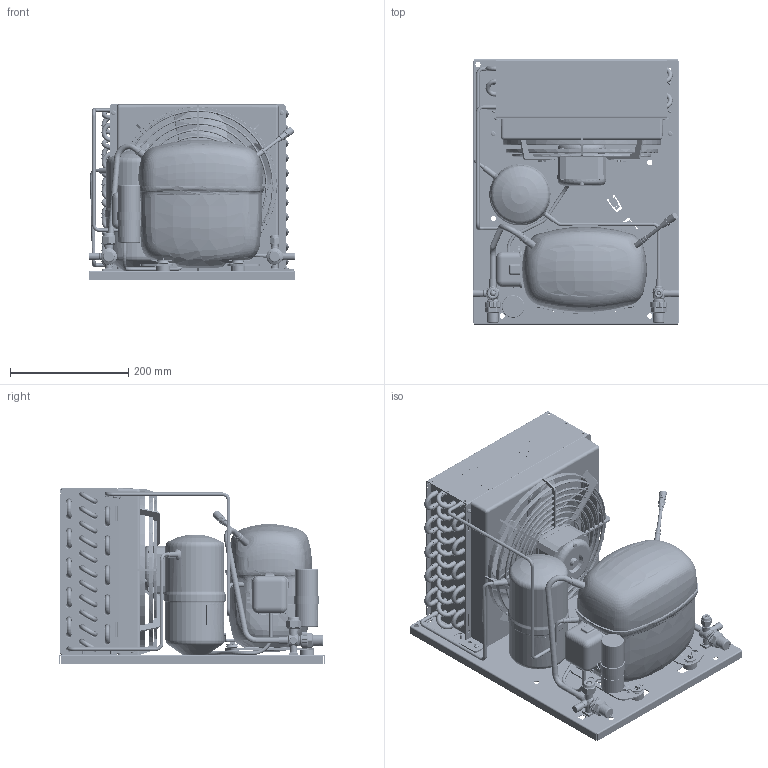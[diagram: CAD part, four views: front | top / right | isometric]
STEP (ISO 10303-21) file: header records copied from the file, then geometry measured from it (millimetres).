
FILE_DESCRIPTION(/* description */ ('Unknown'),/* implementation_level */ '2;1');
FILE_NAME(/* name */ '2298-0054',/* time_stamp */ '2021-12-15T09:23:04+01:00',/* author */ ('Unknown'),/* organization */ ('Unknown'),/* preprocessor_version */ 'ST-DEVELOPER v16.7',/* originating_system */ 'Solid Edge',/* authorisation */ 'Unknown');
FILE_SCHEMA (('AUTOMOTIVE_DESIGN {1 0 10303 214 3 1 1}'));
Products named in the file (43): 2298-0054; 92505122_oa_0; SC18MFX-A-CSIR; 84fm8x12xxxteff00; 6062_22M6; cg254n; 1140270f71; r50115206; r59700314; r50115207; 2990210; r50115201; r50006108; 6072_23m10; NET3T16PVN018; A254-22; 100_200vs00; 84DM8X6.9XXESRF00; 7210-0003; 84RM10X21XXPIAF00; sc18cl-a-csr_piedino; 84v1.8x35xxcopf00; 8392_A; 7560_3; 7030_3m10; 7560_2; 7010_22; 99510255; 8351_2; 99510255_Tubo; 84a4.2x9.5xtbcf01; 84t4.8x8xxxtcca00_oa_1; 84t4.8x8xxxtcca00_oa_2; 84t4.8x8xxxtcca00_oa_3; 84t4.8x8xxxtcca00_oa_4; 84dm4x3.6xxesrf00; 99000082_secop; 6805-1096; 6803-1244; 6803-1256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
Assembly tree (102 placements, depth 3):
  2298-0054
    92505122_oa_0
    SC18MFX-A-CSIR
    84fm8x12xxxteff00  x2
    6062_22M6
    cg254n
    1140270f71
      r50115206
      r59700314  x22
      r50115207
      2990210  x21
      r50115201
      r50006108
    6072_23m10
    NET3T16PVN018
    A254-22
    100_200vs00
    84DM8X6.9XXESRF00
    7210-0003  x2
    84RM10X21XXPIAF00  x4
    sc18cl-a-csr_piedino  x4
    84v1.8x35xxcopf00  x4
    8392_A  x2
    7560_3
    7030_3m10
    7560_2
    7010_22
    99510255
      8351_2
      99510255_Tubo
      8392_A
    84a4.2x9.5xtbcf01  x4
    84t4.8x8xxxtcca00_oa_1
    84t4.8x8xxxtcca00_oa_2
    84t4.8x8xxxtcca00_oa_3
    84t4.8x8xxxtcca00_oa_4
    84dm4x3.6xxesrf00  x4
    99000082_secop
    6805-1096
    6803-1244
    6803-1256
    6803-1249
    2298-0054_CAVO_VENTOLA
    99000082_SECOP_F-GAS
Bounding box: 350 x 450 x 297.36 mm (x, y, z)
Volume: 7585029.1 mm3; surface area: 2899835.9 mm2
Topology: 102 solids, 108 shells, 8063 faces, 20433 edges, 13193 vertices
Faces by surface type: plane 4633, cylinder 1327, bspline 1149, cone 472, torus 450, sphere 32
Full cylindrical faces by diameter (mm): 0.5 x1, 1 x3, 1.2 x4, 1.8 x20, 2.2 x8, 2.7 x4, 3 x7, 3.2 x2, 3.242 x4, 3.3 x2, 3.4 x4, 3.5 x16, 3.6 x4, 3.7 x4, 3.85 x2, 4 x17, 4.2 x18, 4.3 x1, 4.4 x4, 4.5 x6, 4.6 x1, 4.66 x5, 4.7 x4, 4.95 x1, 5 x17, 5.2 x1, 5.4 x6, 5.42 x1, 5.5 x15, 5.6 x1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
Entity records: 374069 total; most frequent: CARTESIAN_POINT 180799, ORIENTED_EDGE 34696, DIRECTION 25573, EDGE_CURVE 17348, VERTEX_POINT 11829, FACE_BOUND 9665, EDGE_LOOP 9663, AXIS2_PLACEMENT_3D 9335
